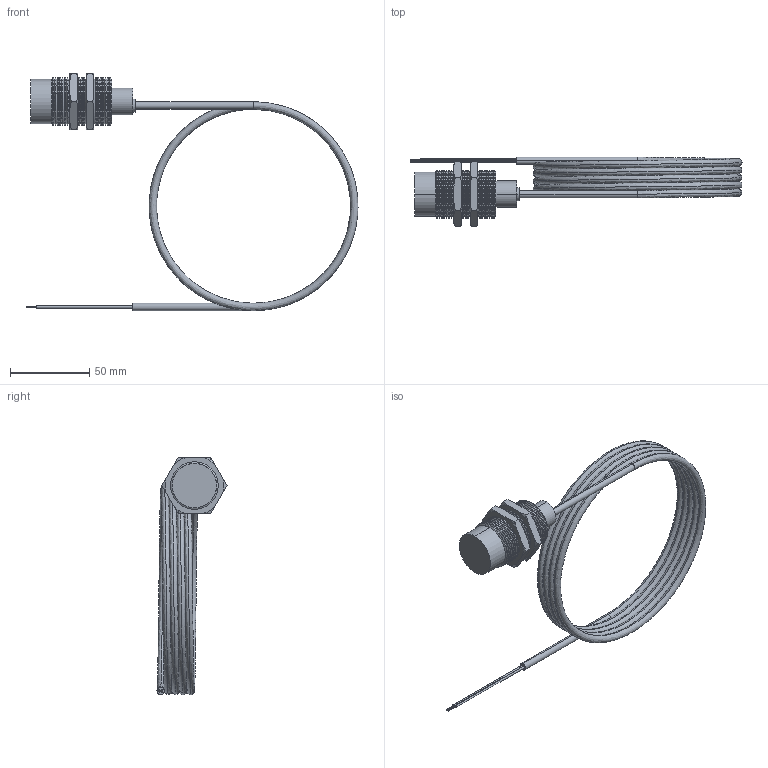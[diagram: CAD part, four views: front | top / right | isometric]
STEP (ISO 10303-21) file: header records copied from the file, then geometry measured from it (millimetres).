
FILE_DESCRIPTION (( 'STEP AP203' ), '1' );
FILE_NAME ('90-XXXX-035.STEP', '2015-10-28T13:23:41', ( 'Sam' ), ( 'Spade' ), 'SwSTEP 2.0', 'SolidWorks 2002296', '' );
FILE_SCHEMA (( 'CONFIG_CONTROL_DESIGN' ));
Length unit declared in the file: inch
Products named in the file (13): 90-XXXX-035; Imported345; Imported347; Imported346; Imported343; Imported351; Imported350; Imported349; Imported348; Imported344; Imported354; Imported353; Imported352
Assembly tree (12 placements, depth 2):
  90-XXXX-035
    Imported354
    Imported350
    Imported343
    Imported347
    Imported353
    Imported344
    Imported345
    Imported348
    Imported351
    Imported349
    Imported346
    Imported352
Bounding box: 209.36 x 44.19 x 149.71 mm (x, y, z)
Volume: 76307 mm3; surface area: 44824.4 mm2
Topology: 12 solids, 12 shells, 293 faces, 608 edges, 346 vertices
Faces by surface type: cone 132, cylinder 76, plane 43, bspline 42
Entity records: 11145 total; most frequent: CARTESIAN_POINT 3650, DIRECTION 1356, ORIENTED_EDGE 1216, EDGE_CURVE 608, AXIS2_PLACEMENT_3D 556, VERTEX_POINT 346, EDGE_LOOP 304, FACE_OUTER_BOUND 293
